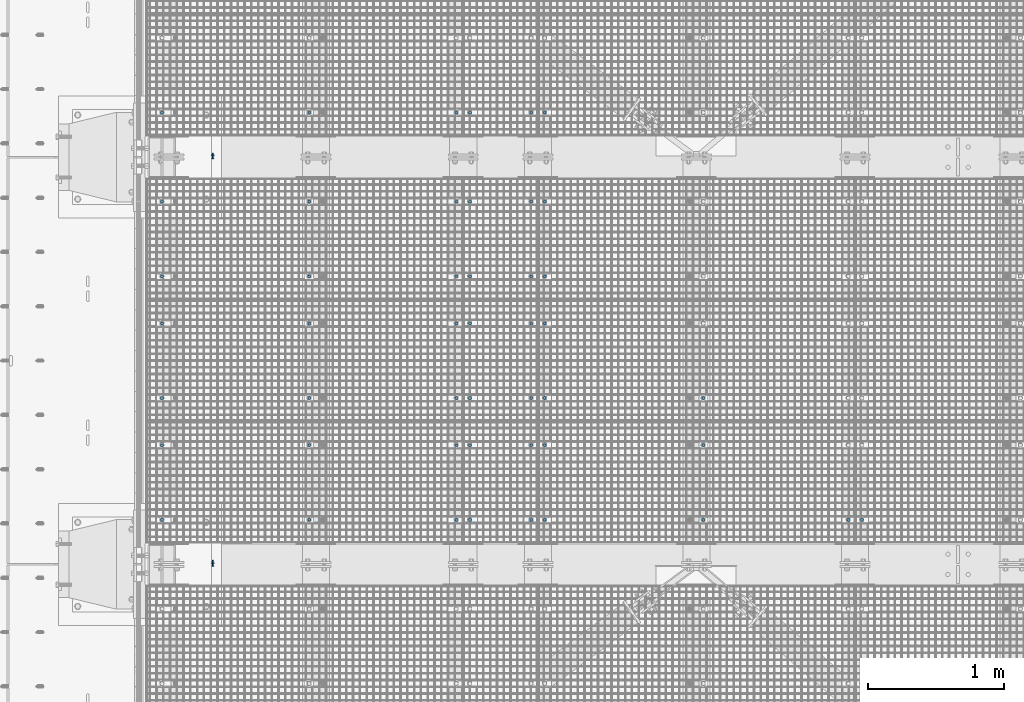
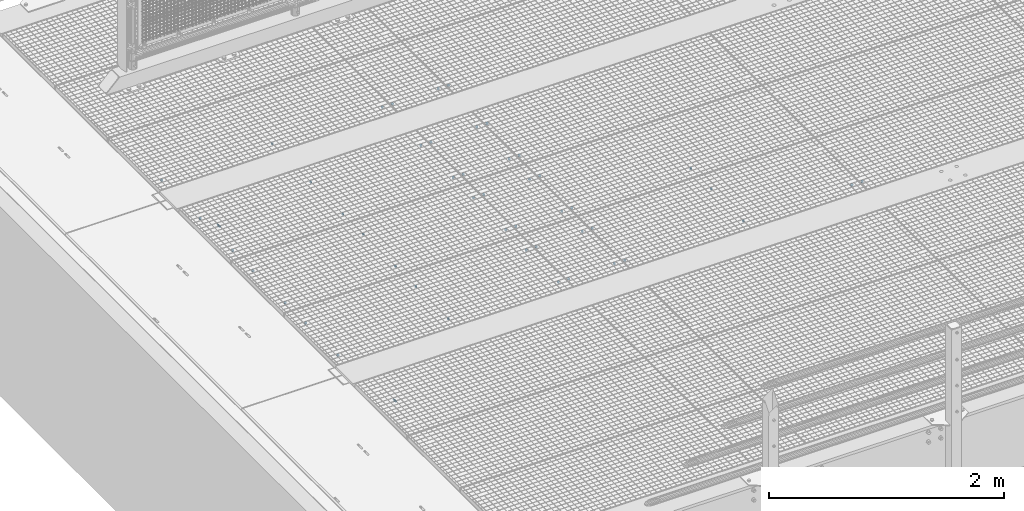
# One storey, part 64 of 1530: 49 mechanical fasteners.
"""IFC2X3 building model written with IfcOpenShell, lengths in millimetres."""

from ifc_helpers import new_model, si_unit, frame, origin_with_axes, place, context, subcontext, project, spatial, faceted_brep, source, transform, mapped, material, type_object, element, save


model = new_model("IFC2X3")

# Units and contexts
model_context = context("Model", 3, precision=1e-05, world=origin_with_axes())
body_context = subcontext(model_context, "Body", "Model", "MODEL_VIEW")
ifc_project = project(units=[si_unit("LENGTHUNIT", "METRE", prefix="MILLI"), si_unit("AREAUNIT", "SQUARE_METRE"), si_unit("VOLUMEUNIT", "CUBIC_METRE"), si_unit("MASSUNIT", "GRAM", prefix="KILO"), si_unit("TIMEUNIT", "SECOND"), si_unit("PLANEANGLEUNIT", "RADIAN"), si_unit("SOLIDANGLEUNIT", "STERADIAN"), si_unit("THERMODYNAMICTEMPERATUREUNIT", "DEGREE_CELSIUS"), si_unit("LUMINOUSINTENSITYUNIT", "LUMEN")], contexts=[model_context])

# Site, building, storey
site_placement = place(None, origin_with_axes())
site = spatial("IfcSite", under=ifc_project, at=site_placement, Name="Brattvåg", CompositionType="ELEMENT")
building_placement = place(site_placement, origin_with_axes())
building = spatial("IfcBuilding", under=site, at=building_placement, Name="Undefined", CompositionType="ELEMENT")
storey_placement = place(building_placement, origin_with_axes())
storey = spatial("IfcBuildingStorey", under=building, at=storey_placement, Name="Undefined", CompositionType="ELEMENT", Elevation=0.0)

# Mechanical fasteners
ifc_material = material(Name="8")
mechanical_fastener_type = type_object("IfcMechanicalFastenerType", Name="Bolt assembly")
shared_shape_1 = source(origin_with_axes(), body_context, "Body", "Brep", [
    faceted_brep([(10.3923048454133, -7.49999965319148, 0.0), (5.19615242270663, -7.49999965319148, 9.0), (-5.19615242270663, -7.49999965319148, 9.0), (-10.3923048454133, -7.49999965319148, 1.27269028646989e-15), (-5.19615242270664, -7.49999965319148, -9.0), (5.19615242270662, -7.49999965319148, -9.0), (5.19615242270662, 3.46808519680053e-07, -9.0), (-5.19615242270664, 3.46808519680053e-07, -9.0), (-10.3923048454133, 3.46808519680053e-07, 1.27269028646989e-15), (-5.19615242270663, 3.46808519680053e-07, 9.0), (5.19615242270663, 3.46808519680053e-07, 9.0), (10.3923048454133, 3.46808519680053e-07, 0.0), (6.0, 3.46808519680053e-07, 0.0), (5.19615242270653, 3.46808519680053e-07, 3.00000000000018), (2.99999999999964, 3.46808519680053e-07, 5.19615242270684), (-6.21801588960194e-13, 3.46808519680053e-07, 6.0), (-3.00000000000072, 3.46808519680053e-07, 5.19615242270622), (-5.19615242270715, 3.46808519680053e-07, 2.9999999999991), (-6.0, 3.46808519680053e-07, -1.24360317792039e-12), (-5.19615242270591, 3.46808519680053e-07, -3.00000000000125), (-2.99999999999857, 3.46808519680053e-07, -5.19615242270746), (1.85874342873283e-12, 3.46808519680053e-07, -6.0), (3.00000000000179, 3.46808519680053e-07, -5.1961524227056), (5.19615242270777, 3.46808519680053e-07, -2.99999999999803), (5.19615242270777, 40.0000003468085, -2.99999999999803), (3.00000000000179, 40.0000003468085, -5.1961524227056), (1.85874342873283e-12, 40.0000003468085, -6.0), (-2.99999999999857, 40.0000003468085, -5.19615242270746), (-5.19615242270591, 40.0000003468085, -3.00000000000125), (-6.0, 40.0000003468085, -1.24360317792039e-12), (-5.19615242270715, 40.0000003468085, 2.9999999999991), (-3.00000000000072, 40.0000003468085, 5.19615242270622), (-6.21801588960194e-13, 40.0000003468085, 6.0), (2.99999999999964, 40.0000003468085, 5.19615242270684), (5.19615242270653, 40.0000003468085, 3.00000000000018), (6.0, 40.0000003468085, 0.0), (12.0, 16.0000003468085, 0.0), (10.3923048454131, 16.0000003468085, 6.00000000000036), (5.99999999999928, 16.0000003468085, 10.3923048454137), (-1.24360317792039e-12, 16.0000003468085, 12.0), (-6.00000000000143, 16.0000003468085, 10.3923048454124), (-10.3923048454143, 16.0000003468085, 5.99999999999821), (-12.0, 16.0000003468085, -2.48720635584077e-12), (-10.3923048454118, 16.0000003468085, -6.00000000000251), (-5.99999999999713, 16.0000003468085, -10.3923048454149), (3.71748685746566e-12, 16.0000003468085, -12.0), (6.00000000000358, 16.0000003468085, -10.3923048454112), (10.3923048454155, 16.0000003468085, -5.99999999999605), (10.3923048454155, 18.5000003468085, -5.99999999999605), (6.00000000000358, 18.5000003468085, -10.3923048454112), (3.71748685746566e-12, 18.5000003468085, -12.0), (-5.99999999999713, 18.5000003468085, -10.3923048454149), (-10.3923048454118, 18.5000003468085, -6.00000000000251), (-12.0, 18.5000003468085, -2.48720635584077e-12), (-10.3923048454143, 18.5000003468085, 5.99999999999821), (-6.00000000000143, 18.5000003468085, 10.3923048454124), (-1.24360317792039e-12, 18.5000003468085, 12.0), (5.99999999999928, 18.5000003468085, 10.3923048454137), (10.3923048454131, 18.5000003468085, 6.00000000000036), (12.0, 18.5000003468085, 0.0), (10.3923048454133, 18.5000003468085, 0.0), (5.19615242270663, 18.5000003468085, 9.0), (-5.19615242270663, 18.5000003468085, 9.0), (-10.3923048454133, 18.5000003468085, 1.27269028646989e-15), (-5.19615242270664, 18.5000003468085, -9.0), (5.19615242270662, 18.5000003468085, -9.0), (5.19615242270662, 29.3000005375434, -9.0), (-5.19615242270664, 29.3000005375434, -9.0), (-10.3923048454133, 29.3000005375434, 1.27269028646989e-15), (-5.19615242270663, 29.3000005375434, 9.0), (5.19615242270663, 29.3000005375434, 9.0), (10.3923048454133, 29.3000005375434, 0.0)], [[[0, 1, 2, 3, 4, 5]], [[6, 7, 8, 9, 10, 11]], [[0, 11, 10, 1]], [[1, 10, 9, 2]], [[2, 9, 8, 3]], [[3, 8, 7, 4]], [[4, 7, 6, 5]], [[5, 6, 11, 0]], [[12, 13, 14, 15, 16, 17, 18, 19, 20, 21, 22, 23]], [[24, 25, 26, 27, 28, 29, 30, 31, 32, 33, 34, 35]], [[12, 35, 34, 13]], [[13, 34, 33, 14]], [[14, 33, 32, 15]], [[15, 32, 31, 16]], [[16, 31, 30, 17]], [[17, 30, 29, 18]], [[18, 29, 28, 19]], [[19, 28, 27, 20]], [[20, 27, 26, 21]], [[21, 26, 25, 22]], [[22, 25, 24, 23]], [[23, 24, 35, 12]], [[36, 37, 38, 39, 40, 41, 42, 43, 44, 45, 46, 47]], [[48, 49, 50, 51, 52, 53, 54, 55, 56, 57, 58, 59]], [[36, 59, 58, 37]], [[37, 58, 57, 38]], [[38, 57, 56, 39]], [[39, 56, 55, 40]], [[40, 55, 54, 41]], [[41, 54, 53, 42]], [[42, 53, 52, 43]], [[43, 52, 51, 44]], [[44, 51, 50, 45]], [[45, 50, 49, 46]], [[46, 49, 48, 47]], [[47, 48, 59, 36]], [[60, 61, 62, 63, 64, 65]], [[66, 67, 68, 69, 70, 71]], [[60, 71, 70, 61]], [[61, 70, 69, 62]], [[62, 69, 68, 63]], [[63, 68, 67, 64]], [[64, 67, 66, 65]], [[65, 66, 71, 60]]]),
    faceted_brep([(6.0, 3.46808519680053e-07, 0.0), (5.19615242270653, 3.46808519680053e-07, 3.00000000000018), (2.99999999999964, 3.46808519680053e-07, 5.19615242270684), (-6.21801588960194e-13, 3.46808519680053e-07, 6.0), (-3.00000000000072, 3.46808519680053e-07, 5.19615242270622), (-5.19615242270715, 3.46808519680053e-07, 2.9999999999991), (-6.0, 3.46808519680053e-07, -1.24360317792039e-12), (-5.19615242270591, 3.46808519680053e-07, -3.00000000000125), (-2.99999999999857, 3.46808519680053e-07, -5.19615242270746), (1.85874342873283e-12, 3.46808519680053e-07, -6.0), (3.00000000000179, 3.46808519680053e-07, -5.1961524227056), (5.19615242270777, 3.46808519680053e-07, -2.99999999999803), (5.19615242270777, 16.1000003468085, -2.99999999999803), (3.00000000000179, 16.1000003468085, -5.1961524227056), (1.85874342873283e-12, 16.1000003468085, -6.0), (-2.99999999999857, 16.1000003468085, -5.19615242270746), (-5.19615242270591, 16.1000003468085, -3.00000000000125), (-6.0, 16.1000003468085, -1.24360317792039e-12), (-5.19615242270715, 16.1000003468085, 2.9999999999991), (-3.00000000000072, 16.1000003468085, 5.19615242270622), (-6.21801588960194e-13, 16.1000003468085, 6.0), (2.99999999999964, 16.1000003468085, 5.19615242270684), (5.19615242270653, 16.1000003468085, 3.00000000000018), (6.0, 16.1000003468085, 0.0)], [[[0, 1, 2, 3, 4, 5, 6, 7, 8, 9, 10, 11]], [[12, 13, 14, 15, 16, 17, 18, 19, 20, 21, 22, 23]], [[0, 23, 22, 1]], [[1, 22, 21, 2]], [[2, 21, 20, 3]], [[3, 20, 19, 4]], [[4, 19, 18, 5]], [[5, 18, 17, 6]], [[6, 17, 16, 7]], [[7, 16, 15, 8]], [[8, 15, 14, 9]], [[9, 14, 13, 10]], [[10, 13, 12, 11]], [[11, 12, 23, 0]]]),
])
for number, where, z_axis, x_axis, name in (
    (1, (510.0, 5991.99999965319, -445.0), (-1.0, 1.99999855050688e-09, 0.0), (0.0, 0.0, 1.0), "Bolt assembly"),
    (2, (510.0, 2991.99999965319, -445.0), (-1.0, 1.99999855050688e-09, 0.0), (0.0, 0.0, 1.0), "Bolt assembly"),
):
    element("IfcMechanicalFastener", number, at=place(storey_placement, frame(where, z_axis=z_axis, x_axis=x_axis)), inside=storey, type_object=mechanical_fastener_type, material=ifc_material, Name=name, NominalDiameter=12.0, NominalLength=40.0, context=body_context, shape_type="MappedRepresentation", body=[
        mapped(shared_shape_1, transform((0.0, 0.0, 0.0))),
    ])
shared_shape_2 = source(origin_with_axes(), body_context, "Body", "Brep", [
    faceted_brep([(11.0, -4.99999999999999, 0.0), (9.52627944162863, -4.99999999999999, 5.50000000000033), (5.49999999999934, -4.99999999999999, 9.5262794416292), (-1.13996957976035e-12, -4.99999999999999, 11.0), (-5.50000000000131, -4.99999999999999, 9.52627944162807), (-9.52627944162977, -4.99999999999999, 5.49999999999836), (-11.0, -4.99999999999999, -2.27993915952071e-12), (-9.5262794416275, -4.99999999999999, -5.5000000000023), (-5.49999999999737, -4.99999999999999, -9.52627944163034), (3.40769628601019e-12, -4.99999999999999, -11.0), (5.50000000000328, -4.99999999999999, -9.52627944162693), (9.52627944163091, -4.99999999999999, -5.49999999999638), (9.52627944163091, 10.1, -5.49999999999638), (5.50000000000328, 10.1, -9.52627944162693), (3.40769628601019e-12, 10.1, -11.0), (-5.49999999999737, 10.1, -9.52627944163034), (-9.5262794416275, 10.1, -5.5000000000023), (-11.0, 10.1, -2.27993915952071e-12), (-9.52627944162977, 10.1, 5.49999999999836), (-5.50000000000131, 10.1, 9.52627944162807), (-1.13996957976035e-12, 10.1, 11.0), (5.49999999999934, 10.1, 9.5262794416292), (9.52627944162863, 10.1, 5.50000000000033), (11.0, 10.1, 0.0)], [[[0, 1, 2, 3, 4, 5, 6, 7, 8, 9, 10, 11]], [[12, 13, 14, 15, 16, 17, 18, 19, 20, 21, 22, 23]], [[0, 23, 22, 1]], [[1, 22, 21, 2]], [[2, 21, 20, 3]], [[3, 20, 19, 4]], [[4, 19, 18, 5]], [[5, 18, 17, 6]], [[6, 17, 16, 7]], [[7, 16, 15, 8]], [[8, 15, 14, 9]], [[9, 14, 13, 10]], [[10, 13, 12, 11]], [[11, 12, 23, 0]]]),
])
for number, where, z_axis, x_axis, name in (
    (3, (2856.01522064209, 6327.91931152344, -35.0), (0.0, -1.0, 0.0), (-1.0, 1.99999855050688e-09, 0.0), "Bolt assembly"),
    (4, (2405.00477935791, 6327.91931152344, -35.0), (0.0, 1.0, 0.0), (1.0, 0.0, 0.0), "Bolt assembly"),
    (5, (137.004779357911, 6327.91931152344, -35.0), (0.0, 1.0, 0.0), (1.0, 0.0, 0.0), "Bolt assembly"),
    (6, (2305.01487731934, 6327.9204864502, -35.0), (0.0, -1.0, 0.0), (-1.0, 1.99999855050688e-09, 0.0), "Bolt assembly"),
    (7, (1220.93192543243, 6327.99, -35.0), (0.0, -1.0, 0.0), (-1.0, 1.99999855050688e-09, 0.0), "Bolt assembly"),
    (8, (2856.01522064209, 5121.91931152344, -35.0), (0.0, -1.0, 0.0), (-1.0, 1.99999855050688e-09, 0.0), "Bolt assembly"),
    (9, (2856.01522064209, 5671.99411010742, -35.0), (0.0, -1.0, 0.0), (-1.0, 1.99999855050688e-09, 0.0), "Bolt assembly"),
    (10, (2405.00477935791, 5121.91931152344, -35.0), (0.0, 1.0, 0.0), (1.0, 0.0, 0.0), "Bolt assembly"),
    (11, (2405.00477935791, 5671.99411010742, -35.0), (0.0, 1.0, 0.0), (1.0, 0.0, 0.0), "Bolt assembly"),
    (12, (137.004779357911, 5121.91931152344, -35.0), (0.0, 1.0, 0.0), (1.0, 0.0, 0.0), "Bolt assembly"),
    (13, (137.004779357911, 5671.99411010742, -35.0), (0.0, 1.0, 0.0), (1.0, 0.0, 0.0), "Bolt assembly"),
    (14, (2305.01487731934, 5671.99411010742, -35.0), (0.0, -1.0, 0.0), (-1.0, 1.99999855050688e-09, 0.0), "Bolt assembly"),
    (15, (2305.01487731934, 5121.9204864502, -35.0), (0.0, -1.0, 0.0), (-1.0, 1.99999855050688e-09, 0.0), "Bolt assembly"),
    (16, (1220.93456069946, 5671.99565124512, -35.0), (0.0, -1.0, 0.0), (-1.0, 1.99999855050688e-09, 0.0), "Bolt assembly"),
    (17, (1220.93192543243, 5121.99, -35.0), (0.0, -1.0, 0.0), (-1.0, 1.99999855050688e-09, 0.0), "Bolt assembly"),
    (18, (2856.01522064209, 4224.91931152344, -35.0), (0.0, -1.0, 0.0), (-1.0, 1.99999855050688e-09, 0.0), "Bolt assembly"),
    (19, (2856.01522064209, 4774.99411010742, -35.0), (0.0, -1.0, 0.0), (-1.0, 1.99999855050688e-09, 0.0), "Bolt assembly"),
    (20, (2405.00477935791, 4224.91931152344, -35.0), (0.0, 1.0, 0.0), (1.0, 0.0, 0.0), "Bolt assembly"),
    (21, (2405.00477935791, 4774.99411010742, -35.0), (0.0, 1.0, 0.0), (1.0, 0.0, 0.0), "Bolt assembly"),
    (22, (137.004779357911, 4224.91931152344, -35.0), (0.0, 1.0, 0.0), (1.0, 0.0, 0.0), "Bolt assembly"),
    (23, (137.004779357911, 4774.99411010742, -35.0), (0.0, 1.0, 0.0), (1.0, 0.0, 0.0), "Bolt assembly"),
    (24, (2305.01487731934, 4774.99411010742, -35.0), (0.0, -1.0, 0.0), (-1.0, 1.99999855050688e-09, 0.0), "Bolt assembly"),
    (25, (2305.01487731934, 4224.9204864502, -35.0), (0.0, -1.0, 0.0), (-1.0, 1.99999855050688e-09, 0.0), "Bolt assembly"),
    (26, (1220.93456069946, 4774.99565124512, -35.0), (0.0, -1.0, 0.0), (-1.0, 1.99999855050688e-09, 0.0), "Bolt assembly"),
    (27, (1220.93192543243, 4224.99, -35.0), (0.0, -1.0, 0.0), (-1.0, 1.99999855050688e-09, 0.0), "Bolt assembly"),
    (28, (2856.01522064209, 3327.91931152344, -35.0), (0.0, -1.0, 0.0), (-1.0, 1.99999855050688e-09, 0.0), "Bolt assembly"),
    (29, (2856.01522064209, 3877.99411010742, -35.0), (0.0, -1.0, 0.0), (-1.0, 1.99999855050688e-09, 0.0), "Bolt assembly"),
    (30, (2405.00477935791, 3327.91931152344, -35.0), (0.0, 1.0, 0.0), (1.0, 0.0, 0.0), "Bolt assembly"),
    (31, (2405.00477935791, 3877.99411010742, -35.0), (0.0, 1.0, 0.0), (1.0, 0.0, 0.0), "Bolt assembly"),
    (32, (137.004779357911, 3327.91931152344, -35.0), (0.0, 1.0, 0.0), (1.0, 0.0, 0.0), "Bolt assembly"),
    (33, (137.004779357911, 3877.99411010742, -35.0), (0.0, 1.0, 0.0), (1.0, 0.0, 0.0), "Bolt assembly"),
    (34, (2305.01487731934, 3877.99411010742, -35.0), (0.0, -1.0, 0.0), (-1.0, 1.99999855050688e-09, 0.0), "Bolt assembly"),
    (35, (2305.01487731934, 3327.9204864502, -35.0), (0.0, -1.0, 0.0), (-1.0, 1.99999855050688e-09, 0.0), "Bolt assembly"),
    (36, (1220.93456069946, 3877.99565124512, -35.0), (0.0, -1.0, 0.0), (-1.0, 1.99999855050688e-09, 0.0), "Bolt assembly"),
    (37, (1220.93192543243, 3327.99, -35.0), (0.0, -1.0, 0.0), (-1.0, 1.99999855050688e-09, 0.0), "Bolt assembly"),
    (38, (5292.00477935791, 3327.98931152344, -35.0), (0.0, 1.0, 0.0), (1.0, 0.0, 0.0), "Bolt assembly"),
    (39, (2956.00477935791, 6327.98931152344, -35.0), (0.0, 1.0, 0.0), (1.0, 0.0, 0.0), "Bolt assembly"),
    (40, (2956.00477935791, 5121.98931152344, -35.0), (0.0, 1.0, 0.0), (1.0, 0.0, 0.0), "Bolt assembly"),
    (41, (2956.00477935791, 5671.99411010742, -35.0), (0.0, 1.0, 0.0), (1.0, 0.0, 0.0), "Bolt assembly"),
    (42, (2956.00477935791, 4224.98931152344, -35.0), (0.0, 1.0, 0.0), (1.0, 0.0, 0.0), "Bolt assembly"),
    (43, (2956.00477935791, 4774.99411010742, -35.0), (0.0, 1.0, 0.0), (1.0, 0.0, 0.0), "Bolt assembly"),
    (44, (4124.01192543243, 4224.99, -35.0), (0.0, -1.0, 0.0), (-1.0, 1.99999855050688e-09, 0.0), "Bolt assembly"),
    (45, (2956.00477935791, 3327.98931152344, -35.0), (0.0, 1.0, 0.0), (1.0, 0.0, 0.0), "Bolt assembly"),
    (46, (2956.00477935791, 3877.99411010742, -35.0), (0.0, 1.0, 0.0), (1.0, 0.0, 0.0), "Bolt assembly"),
    (47, (5192.01487731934, 3327.9904864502, -35.0), (0.0, -1.0, 0.0), (-1.0, 1.99999855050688e-09, 0.0), "Bolt assembly"),
    (48, (4124.01456069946, 3877.99565124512, -35.0), (0.0, -1.0, 0.0), (-1.0, 1.99999855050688e-09, 0.0), "Bolt assembly"),
    (49, (4124.01192543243, 3327.99, -35.0), (0.0, -1.0, 0.0), (-1.0, 1.99999855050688e-09, 0.0), "Bolt assembly"),
):
    element("IfcMechanicalFastener", number, at=place(storey_placement, frame(where, z_axis=z_axis, x_axis=x_axis)), inside=storey, type_object=mechanical_fastener_type, material=ifc_material, Name=name, NominalDiameter=20.0, NominalLength=15.0, context=body_context, shape_type="MappedRepresentation", body=[
        mapped(shared_shape_2, transform((0.0, 0.0, 0.0))),
    ])

save(model, "model.ifc")
